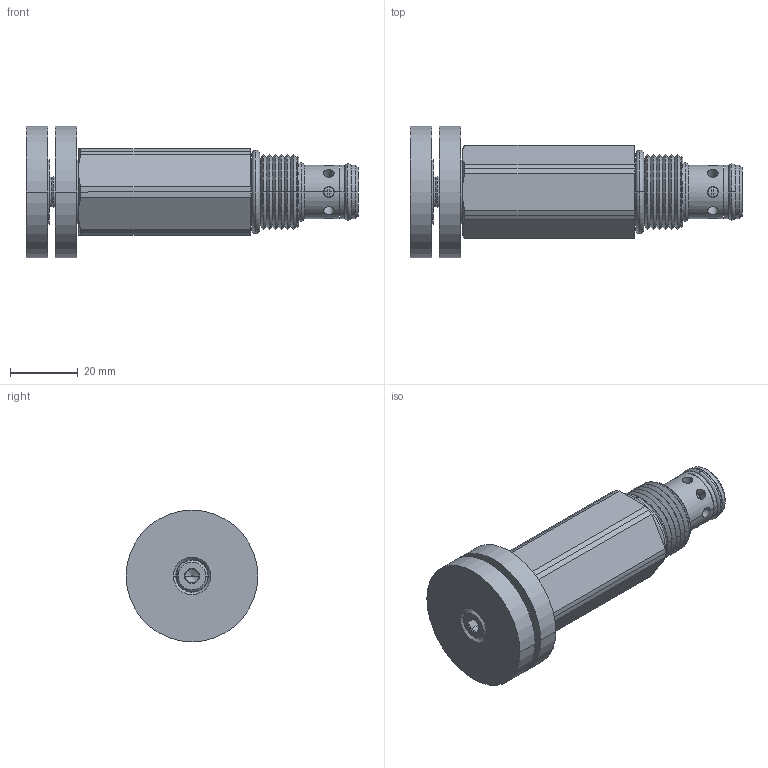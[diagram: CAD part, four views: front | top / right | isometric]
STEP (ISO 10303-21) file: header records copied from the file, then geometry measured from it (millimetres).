
FILE_DESCRIPTION((''),'2;1');
FILE_NAME('U:\Solid model CD\Solid model full\Mechanical\STEP\DEPSD0K-3D Full.stp','2008-07-28T16:13:11',('Dan'),(''),'Autodesk Inventor 9','Autodesk Inventor 9','');
FILE_SCHEMA(('AUTOMOTIVE_DESIGN { 1 0 10303 214 1 1 1 1 }'));
Length unit declared in the file: inch
Products named in the file (7): DEPSD0K-3D Full; DEPSD0K-3D Full1; DEPSD0K-3D Full2; DEPSD0K-3D Full3; DEPSD0K-3D Full4; DEPSD0K-3D Full5; DEPSD0K-3D Full6
Assembly tree (6 placements, depth 2):
  DEPSD0K-3D Full
    DEPSD0K-3D Full1
    DEPSD0K-3D Full2
    DEPSD0K-3D Full3
    DEPSD0K-3D Full4
    DEPSD0K-3D Full5
    DEPSD0K-3D Full6
Bounding box: 97.99 x 38.86 x 38.86 mm (x, y, z)
Volume: 51382.7 mm3; surface area: 16526.7 mm2
Topology: 6 solids, 6 shells, 254 faces, 580 edges, 348 vertices
Faces by surface type: cone 118, cylinder 74, plane 44, bspline 14, torus 4
Entity records: 8157 total; most frequent: CARTESIAN_POINT 2269, DIRECTION 1273, ORIENTED_EDGE 1160, EDGE_CURVE 580, AXIS2_PLACEMENT_3D 532, VERTEX_POINT 348, EDGE_LOOP 290, CIRCLE 279
